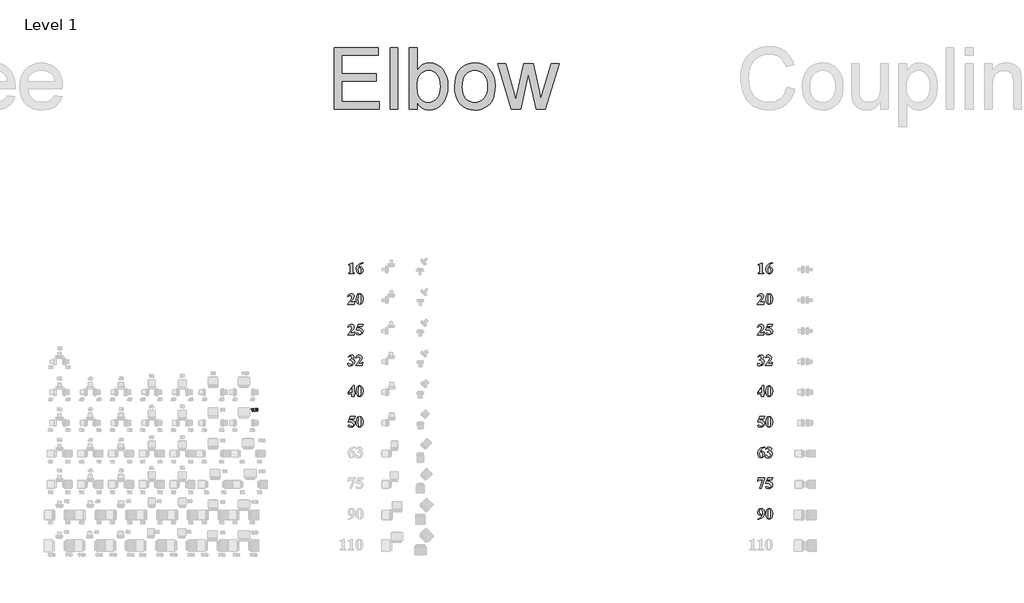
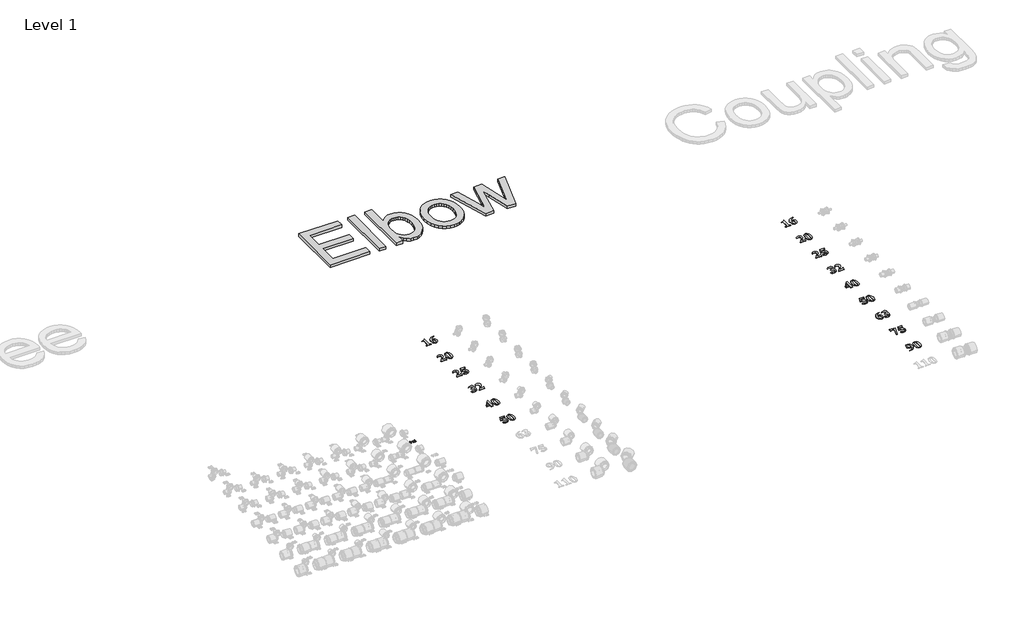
# One storey, part 31 of 57: 17 proxies.
"""IFC4 building model written with IfcOpenShell, lengths in millimetres."""

from ifc_helpers import new_model, si_unit, frame, origin, place, context, project, spatial, polyline, outline, extrude, element, save

model = new_model("IFC4")

# Units and contexts
model_context = context("Model", 3, world=origin())
ifc_project = project(units=[si_unit("LENGTHUNIT", "METRE", prefix="MILLI")], contexts=[model_context])

# Site, building, storey
site = spatial("IfcSite", under=ifc_project)
building = spatial("IfcBuilding", under=site)
storey = spatial("IfcBuildingStorey", under=building, Name="Level 1", Elevation=27.3876384)

# Proxies
placement = place(None, origin())
element("IfcBuildingElementProxy", 1, Name="100mm Arial", ObjectType="100mm Arial", at=placement, inside=storey, context=model_context, shape_type="SweptSolid", body=[
    extrude(outline(polyline([(17028.8058204, 18710.8916255), (17028.8058204, 18627.1351635), (17029.6646513, 18615.4387044), (17033.277194, 18611.2945045), (17042.0836189, 18609.6859006), (17044.510157, 18609.6859006), (17044.510157, 18606.196048), (16988.6725157, 18606.196048), (16988.6725157, 18609.6859006), (16991.4807564, 18609.6859006), (17001.1869089, 18611.1581821), (17005.0993608, 18615.1933242), (17006.1217786, 18627.1351635), (17006.1217786, 18679.4829522), (17005.4674312, 18688.1394225), (17003.0408931, 18691.1248823), (16998.9512221, 18692.3790481), (16989.9812104, 18689.95251), (16988.6725157, 18693.4423626), (17026.3247533, 18710.8916255), (17028.8058204, 18710.8916255)])), frame((0.0, 0.0, 27.3876384), z_axis=(0.0, 0.0, 1.0), x_axis=(1.0, 0.0, 0.0)), (0.0, 0.0, 1.0), 2.0),
    extrude(outline(polyline([(17130.0115453, 18710.8916255), (17130.0115453, 18709.1466992), (17107.9954831, 18700.0676296), (17094.8812715, 18686.5717153), (17087.424438, 18666.91403), (17092.9863906, 18669.4496261), (17102.9651878, 18670.7583208), (17113.5881082, 18668.7032611), (17122.2820671, 18662.5380821), (17128.0791758, 18652.8285215), (17130.0115453, 18640.1403172), (17125.7719197, 18621.8458556), (17113.748287, 18608.9906565), (17097.103326, 18604.4511217), (17079.299625, 18609.6313716), (17066.5398515, 18624.804051), (17061.9594199, 18646.520204), (17064.0621924, 18663.1481247), (17070.37051, 18678.5150634), (17080.5469746, 18691.7519652), (17094.2541886, 18701.989775), (17110.9298221, 18708.5843694), (17130.0115453, 18710.8916255)]), holes=[polyline([(17086.388388, 18661.2975485), (17084.6434617, 18646.1112369), (17086.8382518, 18626.0582168), (17092.8500682, 18612.4668768), (17099.3117484, 18609.6859006), (17106.08697, 18613.7074104), (17109.0724298, 18630.0524621), (17107.7501029, 18647.5698862), (17103.783122, 18658.6801591), (17094.5949945, 18663.7786156), (17086.388388, 18661.2975485)])]), frame((0.0, 0.0, 27.3876384), z_axis=(0.0, 0.0, 1.0), x_axis=(1.0, 0.0, 0.0)), (0.0, 0.0, 1.0), 2.0),
])
element("IfcBuildingElementProxy", 2, Name="100mm Arial", ObjectType="100mm Arial", at=placement, inside=storey, context=model_context, shape_type="SweptSolid", body=[
    extrude(outline(polyline([(17041.8109742, 18306.196048), (16979.9478842, 18306.196048), (16979.9478842, 18307.9409743), (17015.7188732, 18352.5456526), (17021.8261152, 18374.9297852), (17016.6049686, 18388.166687), (17003.8588273, 18393.4423626), (16992.8712446, 18390.5114317), (16984.6646381, 18381.718639), (16981.8563973, 18382.7274246), (16987.1150326, 18395.2281856), (16994.5480097, 18403.9937137), (17003.725913, 18409.1671476), (17014.2193272, 18410.8916255), (17028.7512914, 18407.3063472), (17039.0436301, 18397.4911369), (17042.7652307, 18385.80831), (17037.2578071, 18365.6598643), (17025.2546227, 18349.1171451), (17004.3495878, 18327.1351635), (17026.3247533, 18327.1351635), (17036.8624723, 18327.7349819), (17040.8703498, 18329.7798174), (17045.0009175, 18335.8597949), (17048.0000096, 18335.8597949), (17041.8109742, 18306.196048)])), frame((0.0, 0.0, 27.3876384), z_axis=(0.0, 0.0, 1.0), x_axis=(1.0, 0.0, 0.0)), (0.0, 0.0, 1.0), 2.0),
    extrude(outline(polyline([(17130.0115453, 18357.6713736), (17125.5674362, 18329.0982056), (17118.4514086, 18315.7658781), (17108.3090246, 18307.5047427), (17095.9582182, 18304.4511217), (17082.1760269, 18308.213619), (17071.2838698, 18319.0103504), (17065.3129502, 18332.6425871), (17061.9594199, 18356.4717368), (17066.7852317, 18387.0624758), (17071.7746303, 18397.2491647), (17078.8361289, 18404.7434868), (17095.9582182, 18410.8916255), (17113.0939396, 18404.8252802), (17124.8040309, 18388.5074929), (17130.0115453, 18357.6713736)]), holes=[polyline([(17107.3275035, 18357.6713736), (17106.9730654, 18389.0255179), (17102.8561299, 18403.2303085), (17095.9036892, 18405.6568466), (17090.0690919, 18403.8301269), (17085.7613051, 18394.505677), (17084.6434617, 18347.8561632), (17086.3611236, 18318.6831767), (17090.0554597, 18311.498988), (17096.4217142, 18309.6859006), (17102.8561299, 18312.1124387), (17106.9730654, 18325.1721214), (17107.3275035, 18357.6713736)])]), frame((0.0, 0.0, 27.3876384), z_axis=(0.0, 0.0, 1.0), x_axis=(1.0, 0.0, 0.0)), (0.0, 0.0, 1.0), 2.0),
])
element("IfcBuildingElementProxy", 3, Name="100mm Arial", ObjectType="100mm Arial", at=placement, inside=storey, context=model_context, shape_type="SweptSolid", body=[
    extrude(outline(polyline([(17041.8109742, 18006.196048), (16979.9478842, 18006.196048), (16979.9478842, 18007.9409743), (17015.7188732, 18052.5456526), (17021.8261152, 18074.9297852), (17016.6049686, 18088.166687), (17003.8588273, 18093.4423626), (16992.8712446, 18090.5114317), (16984.6646381, 18081.718639), (16981.8563973, 18082.7274246), (16987.1150326, 18095.2281856), (16994.5480097, 18103.9937137), (17003.725913, 18109.1671476), (17014.2193272, 18110.8916255), (17028.7512914, 18107.3063472), (17039.0436301, 18097.4911369), (17042.7652307, 18085.80831), (17037.2578071, 18065.6598643), (17025.2546227, 18049.1171451), (17004.3495878, 18027.1351635), (17026.3247533, 18027.1351635), (17036.8624723, 18027.7349819), (17040.8703498, 18029.7798174), (17045.0009175, 18035.8597949), (17048.0000096, 18035.8597949), (17041.8109742, 18006.196048)])), frame((0.0, 0.0, 27.3876384), z_axis=(0.0, 0.0, 1.0), x_axis=(1.0, 0.0, 0.0)), (0.0, 0.0, 1.0), 2.0),
    extrude(outline(polyline([(17081.1536091, 18109.1466992), (17130.0115453, 18109.1466992), (17123.0318402, 18088.2075837), (17078.7543355, 18088.2075837), (17075.5643921, 18079.4829522), (17099.8570378, 18075.7068227), (17117.8243258, 18066.3414761), (17126.9647404, 18055.0880647), (17130.0115453, 18041.394483), (17124.3132704, 18022.6910543), (17108.5953015, 18009.0042887), (17086.6065038, 18004.4511217), (17066.7852317, 18009.249669), (17061.9594199, 18016.9655149), (17064.4813837, 18022.8410089), (17070.3568777, 18025.3902372), (17076.4913842, 18024.0815425), (17087.1245288, 18017.1836307), (17095.3038708, 18012.4123479), (17100.729501, 18011.4308268), (17111.5807614, 18015.9976261), (17116.052135, 18026.9715766), (17112.6577081, 18039.0088416), (17102.4744273, 18048.5650395), (17087.1177127, 18054.8017878), (17068.2029843, 18056.8807039), (17061.9594199, 18056.7989104), (17081.1536091, 18109.1466992)])), frame((0.0, 0.0, 27.3876384), z_axis=(0.0, 0.0, 1.0), x_axis=(1.0, 0.0, 0.0)), (0.0, 0.0, 1.0), 2.0),
])
element("IfcBuildingElementProxy", 4, Name="100mm Arial", ObjectType="100mm Arial", at=placement, inside=storey, context=model_context, shape_type="SweptSolid", body=[
    extrude(outline(polyline([(16999.1420734, 17762.0336893), (16999.1420734, 17763.7786156), (17011.5746733, 17768.5907951), (17017.5592251, 17775.379649), (17020.0811889, 17784.6359377), (17015.3780673, 17795.773475), (17003.667976, 17800.4220677), (16993.6073853, 17797.9887135), (16985.1826631, 17790.6886508), (16983.4377368, 17791.6974363), (16997.8470109, 17806.0794459), (17017.436535, 17810.8916255), (17027.4869015, 17809.4397923), (17035.6083065, 17805.0842927), (17040.9759997, 17798.7861993), (17042.7652307, 17791.506585), (17038.7573531, 17781.7322713), (17026.1884309, 17773.4575036), (17042.4107926, 17762.1700117), (17046.6027053, 17754.6109365), (17048.0000096, 17745.3478316), (17045.0077337, 17729.585558), (17036.0309058, 17716.3793288), (17022.0305988, 17707.4331734), (17003.9678852, 17704.4511217), (16992.3668518, 17705.7325519), (16984.3919934, 17709.5768427), (16979.9478842, 17718.8740281), (16982.5243769, 17725.9491589), (16988.4816644, 17728.8800898), (16993.3347406, 17727.7895108), (17002.1956944, 17721.0551859), (17016.4822784, 17714.9206794), (17026.4065467, 17719.3784208), (17030.5507467, 17730.679545), (17028.5502159, 17740.6890148), (17022.5486238, 17749.8873665), (17012.6959247, 17757.3203435), (16999.1420734, 17762.0336893)])), frame((0.0, 0.0, 27.3876384), z_axis=(0.0, 0.0, 1.0), x_axis=(1.0, 0.0, 0.0)), (0.0, 0.0, 1.0), 2.0),
    extrude(outline(polyline([(17120.3326573, 17706.196048), (17058.4695674, 17706.196048), (17058.4695674, 17707.9409743), (17094.2405563, 17752.5456526), (17100.3477984, 17774.9297852), (17095.1266517, 17788.166687), (17082.3805104, 17793.4423626), (17071.3929277, 17790.5114317), (17063.1863212, 17781.718639), (17060.3780805, 17782.7274246), (17065.6367158, 17795.2281856), (17073.0696928, 17803.9937137), (17082.2475961, 17809.1671476), (17092.7410103, 17810.8916255), (17107.2729746, 17807.3063472), (17117.5653133, 17797.4911369), (17121.2869139, 17785.80831), (17115.7794903, 17765.6598643), (17103.7763059, 17749.1171451), (17082.871271, 17727.1351635), (17104.8464365, 17727.1351635), (17115.3841554, 17727.7349819), (17119.392033, 17729.7798174), (17123.5226007, 17735.8597949), (17126.5216927, 17735.8597949), (17120.3326573, 17706.196048)])), frame((0.0, 0.0, 27.3876384), z_axis=(0.0, 0.0, 1.0), x_axis=(1.0, 0.0, 0.0)), (0.0, 0.0, 1.0), 2.0),
])
element("IfcBuildingElementProxy", 5, Name="100mm Arial", ObjectType="100mm Arial", at=placement, inside=storey, context=model_context, shape_type="SweptSolid", body=[
    extrude(outline(polyline([(16983.4377368, 17444.5844264), (17032.7046401, 17510.8916255), (17042.7652307, 17510.8916255), (17042.7652307, 17444.5844264), (17051.4898622, 17444.5844264), (17051.4898622, 17428.8800898), (17042.7652307, 17428.8800898), (17042.7652307, 17406.196048), (17020.0811889, 17406.196048), (17020.0811889, 17428.8800898), (16983.4377368, 17428.8800898), (16983.4377368, 17444.5844264)]), holes=[polyline([(16988.7270446, 17444.5844264), (17020.0811889, 17444.5844264), (17020.0811889, 17486.7625666), (16988.7270446, 17444.5844264)])]), frame((0.0, 0.0, 27.3876384), z_axis=(0.0, 0.0, 1.0), x_axis=(1.0, 0.0, 0.0)), (0.0, 0.0, 1.0), 2.0),
    extrude(outline(polyline([(17130.0115453, 17457.6713736), (17125.5674362, 17429.0982056), (17118.4514086, 17415.7658781), (17108.3090246, 17407.5047427), (17095.9582182, 17404.4511217), (17082.1760269, 17408.213619), (17071.2838698, 17419.0103504), (17065.3129502, 17432.6425871), (17061.9594199, 17456.4717368), (17066.7852317, 17487.0624758), (17071.7746303, 17497.2491647), (17078.8361289, 17504.7434868), (17095.9582182, 17510.8916255), (17113.0939396, 17504.8252802), (17124.8040309, 17488.5074929), (17130.0115453, 17457.6713736)]), holes=[polyline([(17107.3275035, 17457.6713736), (17106.9730654, 17489.0255179), (17102.8561299, 17503.2303085), (17095.9036892, 17505.6568466), (17090.0690919, 17503.8301269), (17085.7613051, 17494.505677), (17084.6434617, 17447.8561632), (17086.3611236, 17418.6831767), (17090.0554597, 17411.498988), (17096.4217142, 17409.6859006), (17102.8561299, 17412.1124387), (17106.9730654, 17425.1721214), (17107.3275035, 17457.6713736)])]), frame((0.0, 0.0, 27.3876384), z_axis=(0.0, 0.0, 1.0), x_axis=(1.0, 0.0, 0.0)), (0.0, 0.0, 1.0), 2.0),
])
element("IfcBuildingElementProxy", 6, Name="100mm Arial", ObjectType="100mm Arial", at=placement, inside=storey, context=model_context, shape_type="SweptSolid", body=[
    extrude(outline(polyline([(17002.631926, 17209.1466992), (17051.4898622, 17209.1466992), (17044.510157, 17188.2075837), (17000.2326524, 17188.2075837), (16997.042709, 17179.4829522), (17021.3353547, 17175.7068227), (17039.3026426, 17166.3414761), (17048.4430573, 17155.0880647), (17051.4898622, 17141.394483), (17045.7915873, 17122.6910543), (17030.0736184, 17109.0042887), (17008.0848207, 17104.4511217), (16988.2635486, 17109.249669), (16983.4377368, 17116.9655149), (16985.9597006, 17122.8410089), (16991.8351946, 17125.3902372), (16997.9697011, 17124.0815425), (17008.6028457, 17117.1836307), (17016.7821877, 17112.4123479), (17022.2078178, 17111.4308268), (17033.0590782, 17115.9976261), (17037.5304518, 17126.9715766), (17034.1360249, 17139.0088416), (17023.9527441, 17148.5650395), (17008.5960295, 17154.8017878), (16989.6813012, 17156.8807039), (16983.4377368, 17156.7989104), (17002.631926, 17209.1466992)])), frame((0.0, 0.0, 27.3876384), z_axis=(0.0, 0.0, 1.0), x_axis=(1.0, 0.0, 0.0)), (0.0, 0.0, 1.0), 2.0),
    extrude(outline(polyline([(17130.0115453, 17157.6713736), (17125.5674362, 17129.0982056), (17118.4514086, 17115.7658781), (17108.3090246, 17107.5047427), (17095.9582182, 17104.4511217), (17082.1760269, 17108.213619), (17071.2838698, 17119.0103504), (17065.3129502, 17132.6425871), (17061.9594199, 17156.4717368), (17066.7852317, 17187.0624758), (17071.7746303, 17197.2491647), (17078.8361289, 17204.7434868), (17095.9582182, 17210.8916255), (17113.0939396, 17204.8252802), (17124.8040309, 17188.5074929), (17130.0115453, 17157.6713736)]), holes=[polyline([(17107.3275035, 17157.6713736), (17106.9730654, 17189.0255179), (17102.8561299, 17203.2303085), (17095.9036892, 17205.6568466), (17090.0690919, 17203.8301269), (17085.7613051, 17194.505677), (17084.6434617, 17147.8561632), (17086.3611236, 17118.6831767), (17090.0554597, 17111.498988), (17096.4217142, 17109.6859006), (17102.8561299, 17112.1124387), (17106.9730654, 17125.1721214), (17107.3275035, 17157.6713736)])]), frame((0.0, 0.0, 27.3876384), z_axis=(0.0, 0.0, 1.0), x_axis=(1.0, 0.0, 0.0)), (0.0, 0.0, 1.0), 2.0),
])
element("IfcBuildingElementProxy", 7, Name="100mm Arial", ObjectType="100mm Arial", at=placement, inside=storey, context=model_context, shape_type="SweptSolid", body=[
    extrude(outline(polyline([(21028.8058204, 18710.8916255), (21028.8058204, 18627.1351635), (21029.6646513, 18615.4387044), (21033.277194, 18611.2945045), (21042.0836189, 18609.6859006), (21044.510157, 18609.6859006), (21044.510157, 18606.196048), (20988.6725157, 18606.196048), (20988.6725157, 18609.6859006), (20991.4807564, 18609.6859006), (21001.1869089, 18611.1581821), (21005.0993608, 18615.1933242), (21006.1217786, 18627.1351635), (21006.1217786, 18679.4829522), (21005.4674312, 18688.1394225), (21003.0408931, 18691.1248823), (20998.9512221, 18692.3790481), (20989.9812104, 18689.95251), (20988.6725157, 18693.4423626), (21026.3247533, 18710.8916255), (21028.8058204, 18710.8916255)])), frame((0.0, 0.0, 27.3876384), z_axis=(0.0, 0.0, 1.0), x_axis=(1.0, 0.0, 0.0)), (0.0, 0.0, 1.0), 2.0),
    extrude(outline(polyline([(21130.0115453, 18710.8916255), (21130.0115453, 18709.1466992), (21107.9954831, 18700.0676296), (21094.8812715, 18686.5717153), (21087.424438, 18666.91403), (21092.9863906, 18669.4496261), (21102.9651878, 18670.7583208), (21113.5881082, 18668.7032611), (21122.2820671, 18662.5380821), (21128.0791758, 18652.8285215), (21130.0115453, 18640.1403172), (21125.7719197, 18621.8458556), (21113.748287, 18608.9906565), (21097.103326, 18604.4511217), (21079.299625, 18609.6313716), (21066.5398515, 18624.804051), (21061.9594199, 18646.520204), (21064.0621924, 18663.1481247), (21070.37051, 18678.5150634), (21080.5469746, 18691.7519652), (21094.2541886, 18701.989775), (21110.9298221, 18708.5843694), (21130.0115453, 18710.8916255)]), holes=[polyline([(21086.388388, 18661.2975485), (21084.6434617, 18646.1112369), (21086.8382518, 18626.0582168), (21092.8500682, 18612.4668768), (21099.3117484, 18609.6859006), (21106.08697, 18613.7074104), (21109.0724298, 18630.0524621), (21107.7501029, 18647.5698862), (21103.783122, 18658.6801591), (21094.5949945, 18663.7786156), (21086.388388, 18661.2975485)])]), frame((0.0, 0.0, 27.3876384), z_axis=(0.0, 0.0, 1.0), x_axis=(1.0, 0.0, 0.0)), (0.0, 0.0, 1.0), 2.0),
])
element("IfcBuildingElementProxy", 8, Name="100mm Arial", ObjectType="100mm Arial", at=placement, inside=storey, context=model_context, shape_type="SweptSolid", body=[
    extrude(outline(polyline([(21041.8109742, 18306.196048), (20979.9478842, 18306.196048), (20979.9478842, 18307.9409743), (21015.7188732, 18352.5456526), (21021.8261152, 18374.9297852), (21016.6049686, 18388.166687), (21003.8588273, 18393.4423626), (20992.8712446, 18390.5114317), (20984.6646381, 18381.718639), (20981.8563973, 18382.7274246), (20987.1150326, 18395.2281856), (20994.5480097, 18403.9937137), (21003.725913, 18409.1671476), (21014.2193272, 18410.8916255), (21028.7512914, 18407.3063472), (21039.0436301, 18397.4911369), (21042.7652307, 18385.80831), (21037.2578071, 18365.6598643), (21025.2546227, 18349.1171451), (21004.3495878, 18327.1351635), (21026.3247533, 18327.1351635), (21036.8624723, 18327.7349819), (21040.8703498, 18329.7798174), (21045.0009175, 18335.8597949), (21048.0000096, 18335.8597949), (21041.8109742, 18306.196048)])), frame((0.0, 0.0, 27.3876384), z_axis=(0.0, 0.0, 1.0), x_axis=(1.0, 0.0, 0.0)), (0.0, 0.0, 1.0), 2.0),
    extrude(outline(polyline([(21130.0115453, 18357.6713736), (21125.5674362, 18329.0982056), (21118.4514086, 18315.7658781), (21108.3090246, 18307.5047427), (21095.9582182, 18304.4511217), (21082.1760269, 18308.213619), (21071.2838698, 18319.0103504), (21065.3129502, 18332.6425871), (21061.9594199, 18356.4717368), (21066.7852317, 18387.0624758), (21071.7746303, 18397.2491647), (21078.8361289, 18404.7434868), (21095.9582182, 18410.8916255), (21113.0939396, 18404.8252802), (21124.8040309, 18388.5074929), (21130.0115453, 18357.6713736)]), holes=[polyline([(21107.3275035, 18357.6713736), (21106.9730654, 18389.0255179), (21102.8561299, 18403.2303085), (21095.9036892, 18405.6568466), (21090.0690919, 18403.8301269), (21085.7613051, 18394.505677), (21084.6434617, 18347.8561632), (21086.3611236, 18318.6831767), (21090.0554597, 18311.498988), (21096.4217142, 18309.6859006), (21102.8561299, 18312.1124387), (21106.9730654, 18325.1721214), (21107.3275035, 18357.6713736)])]), frame((0.0, 0.0, 27.3876384), z_axis=(0.0, 0.0, 1.0), x_axis=(1.0, 0.0, 0.0)), (0.0, 0.0, 1.0), 2.0),
])
element("IfcBuildingElementProxy", 9, Name="100mm Arial", ObjectType="100mm Arial", at=placement, inside=storey, context=model_context, shape_type="SweptSolid", body=[
    extrude(outline(polyline([(21041.8109742, 18006.196048), (20979.9478842, 18006.196048), (20979.9478842, 18007.9409743), (21015.7188732, 18052.5456526), (21021.8261152, 18074.9297852), (21016.6049686, 18088.166687), (21003.8588273, 18093.4423626), (20992.8712446, 18090.5114317), (20984.6646381, 18081.718639), (20981.8563973, 18082.7274246), (20987.1150326, 18095.2281856), (20994.5480097, 18103.9937137), (21003.725913, 18109.1671476), (21014.2193272, 18110.8916255), (21028.7512914, 18107.3063472), (21039.0436301, 18097.4911369), (21042.7652307, 18085.80831), (21037.2578071, 18065.6598643), (21025.2546227, 18049.1171451), (21004.3495878, 18027.1351635), (21026.3247533, 18027.1351635), (21036.8624723, 18027.7349819), (21040.8703498, 18029.7798174), (21045.0009175, 18035.8597949), (21048.0000096, 18035.8597949), (21041.8109742, 18006.196048)])), frame((0.0, 0.0, 27.3876384), z_axis=(0.0, 0.0, 1.0), x_axis=(1.0, 0.0, 0.0)), (0.0, 0.0, 1.0), 2.0),
    extrude(outline(polyline([(21081.1536091, 18109.1466992), (21130.0115453, 18109.1466992), (21123.0318402, 18088.2075837), (21078.7543355, 18088.2075837), (21075.5643921, 18079.4829522), (21099.8570378, 18075.7068227), (21117.8243258, 18066.3414761), (21126.9647404, 18055.0880647), (21130.0115453, 18041.394483), (21124.3132704, 18022.6910543), (21108.5953015, 18009.0042887), (21086.6065038, 18004.4511217), (21066.7852317, 18009.249669), (21061.9594199, 18016.9655149), (21064.4813837, 18022.8410089), (21070.3568777, 18025.3902372), (21076.4913842, 18024.0815425), (21087.1245288, 18017.1836307), (21095.3038708, 18012.4123479), (21100.729501, 18011.4308268), (21111.5807614, 18015.9976261), (21116.052135, 18026.9715766), (21112.6577081, 18039.0088416), (21102.4744273, 18048.5650395), (21087.1177127, 18054.8017878), (21068.2029843, 18056.8807039), (21061.9594199, 18056.7989104), (21081.1536091, 18109.1466992)])), frame((0.0, 0.0, 27.3876384), z_axis=(0.0, 0.0, 1.0), x_axis=(1.0, 0.0, 0.0)), (0.0, 0.0, 1.0), 2.0),
])
element("IfcBuildingElementProxy", 10, Name="100mm Arial", ObjectType="100mm Arial", at=placement, inside=storey, context=model_context, shape_type="SweptSolid", body=[
    extrude(outline(polyline([(20999.1420734, 17762.0336893), (20999.1420734, 17763.7786156), (21011.5746733, 17768.5907951), (21017.5592251, 17775.379649), (21020.0811889, 17784.6359377), (21015.3780673, 17795.773475), (21003.667976, 17800.4220677), (20993.6073853, 17797.9887135), (20985.1826631, 17790.6886508), (20983.4377368, 17791.6974363), (20997.8470109, 17806.0794459), (21017.436535, 17810.8916255), (21027.4869015, 17809.4397923), (21035.6083065, 17805.0842927), (21040.9759997, 17798.7861993), (21042.7652307, 17791.506585), (21038.7573531, 17781.7322713), (21026.1884309, 17773.4575036), (21042.4107926, 17762.1700117), (21046.6027053, 17754.6109365), (21048.0000096, 17745.3478316), (21045.0077337, 17729.585558), (21036.0309058, 17716.3793288), (21022.0305988, 17707.4331734), (21003.9678852, 17704.4511217), (20992.3668518, 17705.7325519), (20984.3919934, 17709.5768427), (20979.9478842, 17718.8740281), (20982.5243769, 17725.9491589), (20988.4816644, 17728.8800898), (20993.3347406, 17727.7895108), (21002.1956944, 17721.0551859), (21016.4822784, 17714.9206794), (21026.4065467, 17719.3784208), (21030.5507467, 17730.679545), (21028.5502159, 17740.6890148), (21022.5486238, 17749.8873665), (21012.6959247, 17757.3203435), (20999.1420734, 17762.0336893)])), frame((0.0, 0.0, 27.3876384), z_axis=(0.0, 0.0, 1.0), x_axis=(1.0, 0.0, 0.0)), (0.0, 0.0, 1.0), 2.0),
    extrude(outline(polyline([(21120.3326573, 17706.196048), (21058.4695674, 17706.196048), (21058.4695674, 17707.9409743), (21094.2405563, 17752.5456526), (21100.3477984, 17774.9297852), (21095.1266517, 17788.166687), (21082.3805104, 17793.4423626), (21071.3929277, 17790.5114317), (21063.1863212, 17781.718639), (21060.3780805, 17782.7274246), (21065.6367158, 17795.2281856), (21073.0696928, 17803.9937137), (21082.2475961, 17809.1671476), (21092.7410103, 17810.8916255), (21107.2729746, 17807.3063472), (21117.5653133, 17797.4911369), (21121.2869139, 17785.80831), (21115.7794903, 17765.6598643), (21103.7763059, 17749.1171451), (21082.871271, 17727.1351635), (21104.8464365, 17727.1351635), (21115.3841554, 17727.7349819), (21119.392033, 17729.7798174), (21123.5226007, 17735.8597949), (21126.5216927, 17735.8597949), (21120.3326573, 17706.196048)])), frame((0.0, 0.0, 27.3876384), z_axis=(0.0, 0.0, 1.0), x_axis=(1.0, 0.0, 0.0)), (0.0, 0.0, 1.0), 2.0),
])
element("IfcBuildingElementProxy", 11, Name="100mm Arial", ObjectType="100mm Arial", at=placement, inside=storey, context=model_context, shape_type="SweptSolid", body=[
    extrude(outline(polyline([(20983.4377368, 17444.5844264), (21032.7046401, 17510.8916255), (21042.7652307, 17510.8916255), (21042.7652307, 17444.5844264), (21051.4898622, 17444.5844264), (21051.4898622, 17428.8800898), (21042.7652307, 17428.8800898), (21042.7652307, 17406.196048), (21020.0811889, 17406.196048), (21020.0811889, 17428.8800898), (20983.4377368, 17428.8800898), (20983.4377368, 17444.5844264)]), holes=[polyline([(20988.7270446, 17444.5844264), (21020.0811889, 17444.5844264), (21020.0811889, 17486.7625666), (20988.7270446, 17444.5844264)])]), frame((0.0, 0.0, 27.3876384), z_axis=(0.0, 0.0, 1.0), x_axis=(1.0, 0.0, 0.0)), (0.0, 0.0, 1.0), 2.0),
    extrude(outline(polyline([(21130.0115453, 17457.6713736), (21125.5674362, 17429.0982056), (21118.4514086, 17415.7658781), (21108.3090246, 17407.5047427), (21095.9582182, 17404.4511217), (21082.1760269, 17408.213619), (21071.2838698, 17419.0103504), (21065.3129502, 17432.6425871), (21061.9594199, 17456.4717368), (21066.7852317, 17487.0624758), (21071.7746303, 17497.2491647), (21078.8361289, 17504.7434868), (21095.9582182, 17510.8916255), (21113.0939396, 17504.8252802), (21124.8040309, 17488.5074929), (21130.0115453, 17457.6713736)]), holes=[polyline([(21107.3275035, 17457.6713736), (21106.9730654, 17489.0255179), (21102.8561299, 17503.2303085), (21095.9036892, 17505.6568466), (21090.0690919, 17503.8301269), (21085.7613051, 17494.505677), (21084.6434617, 17447.8561632), (21086.3611236, 17418.6831767), (21090.0554597, 17411.498988), (21096.4217142, 17409.6859006), (21102.8561299, 17412.1124387), (21106.9730654, 17425.1721214), (21107.3275035, 17457.6713736)])]), frame((0.0, 0.0, 27.3876384), z_axis=(0.0, 0.0, 1.0), x_axis=(1.0, 0.0, 0.0)), (0.0, 0.0, 1.0), 2.0),
])
element("IfcBuildingElementProxy", 12, Name="100mm Arial", ObjectType="100mm Arial", at=placement, inside=storey, context=model_context, shape_type="SweptSolid", body=[
    extrude(outline(polyline([(21002.631926, 17209.1466992), (21051.4898622, 17209.1466992), (21044.510157, 17188.2075837), (21000.2326524, 17188.2075837), (20997.042709, 17179.4829522), (21021.3353547, 17175.7068227), (21039.3026426, 17166.3414761), (21048.4430573, 17155.0880647), (21051.4898622, 17141.394483), (21045.7915873, 17122.6910543), (21030.0736184, 17109.0042887), (21008.0848207, 17104.4511217), (20988.2635486, 17109.249669), (20983.4377368, 17116.9655149), (20985.9597006, 17122.8410089), (20991.8351946, 17125.3902372), (20997.9697011, 17124.0815425), (21008.6028457, 17117.1836307), (21016.7821877, 17112.4123479), (21022.2078178, 17111.4308268), (21033.0590782, 17115.9976261), (21037.5304518, 17126.9715766), (21034.1360249, 17139.0088416), (21023.9527441, 17148.5650395), (21008.5960295, 17154.8017878), (20989.6813012, 17156.8807039), (20983.4377368, 17156.7989104), (21002.631926, 17209.1466992)])), frame((0.0, 0.0, 27.3876384), z_axis=(0.0, 0.0, 1.0), x_axis=(1.0, 0.0, 0.0)), (0.0, 0.0, 1.0), 2.0),
    extrude(outline(polyline([(21130.0115453, 17157.6713736), (21125.5674362, 17129.0982056), (21118.4514086, 17115.7658781), (21108.3090246, 17107.5047427), (21095.9582182, 17104.4511217), (21082.1760269, 17108.213619), (21071.2838698, 17119.0103504), (21065.3129502, 17132.6425871), (21061.9594199, 17156.4717368), (21066.7852317, 17187.0624758), (21071.7746303, 17197.2491647), (21078.8361289, 17204.7434868), (21095.9582182, 17210.8916255), (21113.0939396, 17204.8252802), (21124.8040309, 17188.5074929), (21130.0115453, 17157.6713736)]), holes=[polyline([(21107.3275035, 17157.6713736), (21106.9730654, 17189.0255179), (21102.8561299, 17203.2303085), (21095.9036892, 17205.6568466), (21090.0690919, 17203.8301269), (21085.7613051, 17194.505677), (21084.6434617, 17147.8561632), (21086.3611236, 17118.6831767), (21090.0554597, 17111.498988), (21096.4217142, 17109.6859006), (21102.8561299, 17112.1124387), (21106.9730654, 17125.1721214), (21107.3275035, 17157.6713736)])]), frame((0.0, 0.0, 27.3876384), z_axis=(0.0, 0.0, 1.0), x_axis=(1.0, 0.0, 0.0)), (0.0, 0.0, 1.0), 2.0),
])
element("IfcBuildingElementProxy", 13, Name="100mm Arial", ObjectType="100mm Arial", at=placement, inside=storey, context=model_context, shape_type="SweptSolid", body=[
    extrude(outline(polyline([(21051.4898622, 16910.8916255), (21051.4898622, 16909.1466992), (21029.4738, 16900.0676296), (21016.3595883, 16886.5717153), (21008.9027549, 16866.91403), (21014.4647074, 16869.4496261), (21024.4435047, 16870.7583208), (21035.0664251, 16868.7032611), (21043.760384, 16862.5380821), (21049.5574926, 16852.8285215), (21051.4898622, 16840.1403172), (21047.2502366, 16821.8458556), (21035.2266039, 16808.9906565), (21018.5816429, 16804.4511217), (21000.7779418, 16809.6313716), (20988.0181683, 16824.804051), (20983.4377368, 16846.520204), (20985.5405093, 16863.1481247), (20991.8488268, 16878.5150634), (21002.0252915, 16891.7519652), (21015.7325054, 16901.989775), (21032.4081389, 16908.5843694), (21051.4898622, 16910.8916255)]), holes=[polyline([(21007.8667049, 16861.2975485), (21006.1217786, 16846.1112369), (21008.3165687, 16826.0582168), (21014.3283851, 16812.4668768), (21020.7900652, 16809.6859006), (21027.5652869, 16813.7074104), (21030.5507467, 16830.0524621), (21029.2284197, 16847.5698862), (21025.2614389, 16858.6801591), (21016.0733113, 16863.7786156), (21007.8667049, 16861.2975485)])]), frame((0.0, 0.0, 27.3876384), z_axis=(0.0, 0.0, 1.0), x_axis=(1.0, 0.0, 0.0)), (0.0, 0.0, 1.0), 2.0),
    extrude(outline(polyline([(21077.6637566, 16862.0336893), (21077.6637566, 16863.7786156), (21090.0963564, 16868.5907951), (21096.0809083, 16875.379649), (21098.6028721, 16884.6359377), (21093.8997504, 16895.773475), (21082.1896591, 16900.4220677), (21072.1290685, 16897.9887135), (21063.7043462, 16890.6886508), (21061.9594199, 16891.6974363), (21076.3686941, 16906.0794459), (21095.9582182, 16910.8916255), (21106.0085846, 16909.4397923), (21114.1299896, 16905.0842927), (21119.4976828, 16898.7861993), (21121.2869139, 16891.506585), (21117.2790363, 16881.7322713), (21104.7101141, 16873.4575036), (21120.9324757, 16862.1700117), (21125.1243885, 16854.6109365), (21126.5216927, 16845.3478316), (21123.5294168, 16829.585558), (21114.552589, 16816.3793288), (21100.5522819, 16807.4331734), (21082.4895683, 16804.4511217), (21070.8885349, 16805.7325519), (21062.9136765, 16809.5768427), (21058.4695674, 16818.8740281), (21061.0460601, 16825.9491589), (21067.0033475, 16828.8800898), (21071.8564237, 16827.7895108), (21080.7173776, 16821.0551859), (21095.0039616, 16814.9206794), (21104.9282299, 16819.3784208), (21109.0724298, 16830.679545), (21107.0718991, 16840.6890148), (21101.0703069, 16849.8873665), (21091.2176079, 16857.3203435), (21077.6637566, 16862.0336893)])), frame((0.0, 0.0, 27.3876384), z_axis=(0.0, 0.0, 1.0), x_axis=(1.0, 0.0, 0.0)), (0.0, 0.0, 1.0), 2.0),
])
element("IfcBuildingElementProxy", 14, Name="100mm Arial", ObjectType="100mm Arial", at=placement, inside=storey, context=model_context, shape_type="SweptSolid", body=[
    extrude(outline(polyline([(21006.0945141, 16506.196048), (21034.5040953, 16588.2075837), (21012.8561035, 16588.2075837), (20993.7437077, 16584.8540535), (20986.3550354, 16575.9930996), (20983.4377368, 16575.9930996), (20990.935467, 16609.1466992), (21052.7167635, 16609.1466992), (21016.2914271, 16506.196048), (21006.0945141, 16506.196048)])), frame((0.0, 0.0, 27.3876384), z_axis=(0.0, 0.0, 1.0), x_axis=(1.0, 0.0, 0.0)), (0.0, 0.0, 1.0), 2.0),
    extrude(outline(polyline([(21081.1536091, 16609.1466992), (21130.0115453, 16609.1466992), (21123.0318402, 16588.2075837), (21078.7543355, 16588.2075837), (21075.5643921, 16579.4829522), (21099.8570378, 16575.7068227), (21117.8243258, 16566.3414761), (21126.9647404, 16555.0880647), (21130.0115453, 16541.394483), (21124.3132704, 16522.6910543), (21108.5953015, 16509.0042887), (21086.6065038, 16504.4511217), (21066.7852317, 16509.249669), (21061.9594199, 16516.9655149), (21064.4813837, 16522.8410089), (21070.3568777, 16525.3902372), (21076.4913842, 16524.0815425), (21087.1245288, 16517.1836307), (21095.3038708, 16512.4123479), (21100.729501, 16511.4308268), (21111.5807614, 16515.9976261), (21116.052135, 16526.9715766), (21112.6577081, 16539.0088416), (21102.4744273, 16548.5650395), (21087.1177127, 16554.8017878), (21068.2029843, 16556.8807039), (21061.9594199, 16556.7989104), (21081.1536091, 16609.1466992)])), frame((0.0, 0.0, 27.3876384), z_axis=(0.0, 0.0, 1.0), x_axis=(1.0, 0.0, 0.0)), (0.0, 0.0, 1.0), 2.0),
])
element("IfcBuildingElementProxy", 15, Name="100mm Arial", ObjectType="100mm Arial", at=placement, inside=storey, context=model_context, shape_type="SweptSolid", body=[
    extrude(outline(polyline([(20983.4377368, 16204.4511217), (20983.4377368, 16206.196048), (21005.6310181, 16214.8116215), (21020.0675567, 16228.9073542), (21027.5243901, 16248.2378658), (21019.1678291, 16245.3887284), (21011.9018469, 16244.5844264), (21000.7097806, 16246.6394861), (20991.5625498, 16252.8046651), (20985.4689401, 16262.5483062), (20983.4377368, 16275.3387523), (20987.7046269, 16293.524156), (20999.8918464, 16306.3384584), (21016.3459561, 16310.8916255), (21033.6588966, 16305.7659045), (21046.6504182, 16290.9203988), (21051.4898622, 16268.7407497), (21049.5268201, 16252.9614358), (21043.6376939, 16237.8501015), (21033.8599721, 16224.5348143), (21020.2311435, 16214.1436419), (21003.2556008, 16207.2559544), (20983.4377368, 16204.4511217)]), holes=[polyline([(21028.8058204, 16253.9634052), (21028.8058204, 16268.7952787), (21025.3159678, 16294.3420902), (21019.454106, 16303.9937137), (21014.0557403, 16305.6568466), (21007.5940601, 16302.4123743), (21004.3768523, 16285.4538719), (21005.7877888, 16267.834206), (21010.0205983, 16256.6898525), (21019.972131, 16251.5641316), (21028.8058204, 16253.9634052)])]), frame((0.0, 0.0, 27.3876384), z_axis=(0.0, 0.0, 1.0), x_axis=(1.0, 0.0, 0.0)), (0.0, 0.0, 1.0), 2.0),
    extrude(outline(polyline([(21130.0115453, 16257.6713736), (21125.5674362, 16229.0982056), (21118.4514086, 16215.7658781), (21108.3090246, 16207.5047427), (21095.9582182, 16204.4511217), (21082.1760269, 16208.213619), (21071.2838698, 16219.0103504), (21065.3129502, 16232.6425871), (21061.9594199, 16256.4717368), (21066.7852317, 16287.0624758), (21071.7746303, 16297.2491647), (21078.8361289, 16304.7434868), (21095.9582182, 16310.8916255), (21113.0939396, 16304.8252802), (21124.8040309, 16288.5074929), (21130.0115453, 16257.6713736)]), holes=[polyline([(21107.3275035, 16257.6713736), (21106.9730654, 16289.0255179), (21102.8561299, 16303.2303085), (21095.9036892, 16305.6568466), (21090.0690919, 16303.8301269), (21085.7613051, 16294.505677), (21084.6434617, 16247.8561632), (21086.3611236, 16218.6831767), (21090.0554597, 16211.498988), (21096.4217142, 16209.6859006), (21102.8561299, 16212.1124387), (21106.9730654, 16225.1721214), (21107.3275035, 16257.6713736)])]), frame((0.0, 0.0, 27.3876384), z_axis=(0.0, 0.0, 1.0), x_axis=(1.0, 0.0, 0.0)), (0.0, 0.0, 1.0), 2.0),
])
element("IfcBuildingElementProxy", 16, Name="30mm Arial", ObjectType="30mm Arial", at=placement, inside=storey, context=model_context, shape_type="SweptSolid", body=[
    extrude(outline(polyline([(16051.9389426, 17259.8803264), (16046.1088889, 17259.8803264), (16046.1088889, 17281.7582103), (16038.8213218, 17276.8846498), (16038.8213218, 17282.7147035), (16043.6872911, 17285.5727962), (16047.2931186, 17290.4881084), (16051.9389426, 17290.4881084), (16051.9389426, 17259.8803264)])), frame((0.0, 0.0, 27.3876384), z_axis=(0.0, 0.0, 1.0), x_axis=(1.0, 0.0, 0.0)), (0.0, 0.0, 1.0), 2.0),
    extrude(outline(polyline([(16075.2591575, 17259.8803264), (16069.4291038, 17259.8803264), (16069.4291038, 17281.7582103), (16062.1415366, 17276.8846498), (16062.1415366, 17282.7147035), (16067.007506, 17285.5727962), (16070.6133335, 17290.4881084), (16075.2591575, 17290.4881084), (16075.2591575, 17259.8803264)])), frame((0.0, 0.0, 27.3876384), z_axis=(0.0, 0.0, 1.0), x_axis=(1.0, 0.0, 0.0)), (0.0, 0.0, 1.0), 2.0),
    extrude(outline(polyline([(16093.7209943, 17290.4881084), (16100.5151324, 17287.3301627), (16103.4377505, 17274.9337073), (16100.49995, 17262.5068871), (16093.7209943, 17259.3944886), (16086.6801416, 17262.8105357), (16084.0042381, 17274.994437), (16086.9420386, 17287.37571), (16093.7209943, 17290.4881084)]), holes=[polyline([(16093.7209943, 17285.1438925), (16091.777643, 17284.5024348), (16090.4567715, 17282.1985008), (16089.8342918, 17274.9337073), (16090.3884505, 17267.9156283), (16091.7890299, 17265.372571), (16093.7209943, 17264.7387045), (16095.6643455, 17265.3801623), (16096.985217, 17267.6840962), (16097.6076967, 17274.9337073), (16097.053538, 17281.9479907), (16095.6529587, 17284.5024348), (16093.7209943, 17285.1438925)])]), frame((0.0, 0.0, 27.3876384), z_axis=(0.0, 0.0, 1.0), x_axis=(1.0, 0.0, 0.0)), (0.0, 0.0, 1.0), 2.0),
])
element("IfcBuildingElementProxy", 17, Name="600mm Arial", ObjectType="600mm Arial", at=placement, inside=storey, context=model_context, shape_type="SweptSolid", body=[
    extrude(outline(polyline([(16846.7427908, 20213.7679008), (16846.7427908, 20816.5057617), (17279.9606283, 20816.5057617), (17279.9606283, 20741.1635291), (16922.0850234, 20741.1635291), (16922.0850234, 20562.2257266), (17261.1250702, 20562.2257266), (17261.1250702, 20486.883494), (16922.0850234, 20486.883494), (16922.0850234, 20289.1101334), (17289.3784074, 20289.1101334), (17289.3784074, 20213.7679008), (16846.7427908, 20213.7679008)])), frame((0.0, 0.0, 27.3876384), z_axis=(0.0, 0.0, 1.0), x_axis=(1.0, 0.0, 0.0)), (0.0, 0.0, 1.0), 30.0),
    extrude(outline(polyline([(17392.9739772, 20213.7679008), (17392.9739772, 20816.5057617), (17468.3162098, 20816.5057617), (17468.3162098, 20213.7679008), (17392.9739772, 20213.7679008)])), frame((0.0, 0.0, 27.3876384), z_axis=(0.0, 0.0, 1.0), x_axis=(1.0, 0.0, 0.0)), (0.0, 0.0, 1.0), 30.0),
    extrude(outline(polyline([(17656.6717914, 20213.7679008), (17581.3295588, 20213.7679008), (17581.3295588, 20816.5057617), (17656.6717914, 20816.5057617), (17656.6717914, 20592.9806614), (17681.4486437, 20624.8484393), (17709.4260695, 20647.6111377), (17740.6040686, 20661.2687568), (17774.982641, 20665.8212965), (17813.7941915, 20661.7194122), (17850.4720264, 20649.4137595), (17882.9192184, 20629.6768905), (17909.0388401, 20603.2813573), (17929.5114731, 20570.4846774), (17945.0176992, 20531.5443682), (17954.7849662, 20488.0791105), (17958.0407218, 20441.707585), (17954.670003, 20388.1991488), (17944.5578467, 20341.1286475), (17927.7042528, 20300.4960812), (17904.1092213, 20266.3014497), (17875.7869062, 20239.1977437), (17844.7514614, 20219.8379537), (17811.0028869, 20208.2220797), (17774.5411826, 20204.3501217), (17739.031373, 20209.3441198), (17707.5498713, 20224.3261141), (17680.0966774, 20249.2961045), (17656.6717914, 20284.2540911), (17656.6717914, 20213.7679008)]), holes=[polyline([(17656.6717914, 20438.1759179), (17661.8221393, 20375.3416731), (17668.2600742, 20351.539708), (17677.2731831, 20332.8145144), (17695.5293271, 20309.5735694), (17716.7469212, 20292.9728944), (17740.9259653, 20283.0124893), (17768.0664595, 20279.6923543), (17790.5992317, 20282.1387696), (17811.5501113, 20289.4780154), (17830.9190984, 20301.7100918), (17848.7061928, 20318.8349986), (17863.5778225, 20340.8067508), (17874.2004151, 20367.579363), (17880.5739707, 20399.1528352), (17882.6984892, 20435.5271675), (17880.6613427, 20472.5912785), (17874.549903, 20504.4682534), (17864.3641703, 20531.1580921), (17850.1041444, 20552.6607948), (17832.9562449, 20569.2062875), (17814.1068912, 20581.0244966), (17793.5560832, 20588.115422), (17771.3038211, 20590.4790639), (17748.7710489, 20588.0326486), (17727.8201692, 20580.6934028), (17708.4511822, 20568.4613265), (17690.6640877, 20551.3364196), (17675.7924581, 20529.5853966), (17665.1698655, 20503.474972), (17658.7963099, 20473.0051458), (17656.6717914, 20438.1759179)])]), frame((0.0, 0.0, 27.3876384), z_axis=(0.0, 0.0, 1.0), x_axis=(1.0, 0.0, 0.0)), (0.0, 0.0, 1.0), 30.0),
    extrude(outline(polyline([(18023.9651754, 20435.0857091), (18028.0394684, 20492.410921), (18040.2623477, 20541.8082759), (18060.6338132, 20583.2777738), (18089.1538649, 20616.8194147), (18117.8670546, 20638.257738), (18149.5600885, 20653.570826), (18184.2329665, 20662.7586789), (18221.8856888, 20665.8212965), (18263.4517557, 20662.0918928), (18301.0355, 20650.9036816), (18334.6369218, 20632.2566629), (18364.2560209, 20606.1508369), (18388.4304665, 20573.4691201), (18405.6979276, 20535.0944295), (18416.0584043, 20491.026765), (18419.5118966, 20441.2661266), (18417.9851863, 20400.9370629), (18413.4050554, 20365.1513418), (18405.771504, 20333.9089634), (18395.0845321, 20307.2099276), (18381.4774968, 20284.148325), (18365.0837554, 20263.8182462), (18345.9033079, 20246.2196913), (18323.9361542, 20231.3526602), (18300.0376201, 20219.5390496), (18275.0630312, 20211.1007563), (18249.0123874, 20206.0377804), (18221.8856888, 20204.3501217), (18179.7126165, 20208.0657299), (18141.7793843, 20219.2125543), (18108.0859921, 20237.7905951), (18078.6324398, 20263.7998521), (18054.7155116, 20296.7988671), (18037.6319915, 20336.3461816), (18027.3818794, 20382.4417956), (18023.9651754, 20435.0857091)]), holes=[polyline([(18099.307408, 20435.2328619), (18101.4871088, 20398.6883842), (18108.0262112, 20367.0459341), (18118.9247154, 20340.3055116), (18134.1826211, 20318.4671166), (18152.7422678, 20301.5031581), (18173.5459946, 20289.3860449), (18196.5938016, 20282.115777), (18221.8856888, 20279.6923543), (18247.0488172, 20282.1295726), (18270.0046537, 20289.4412272), (18290.7531983, 20301.6273183), (18309.2944508, 20318.6878458), (18324.5523566, 20340.7423714), (18335.4508607, 20367.9104568), (18341.9899631, 20400.1921019), (18344.169664, 20437.5873067), (18341.9761676, 20472.9729561), (18335.3956784, 20503.7876717), (18324.4281964, 20530.0314535), (18309.0737216, 20551.7043016), (18290.4634912, 20568.6682601), (18269.7287422, 20580.7853733), (18246.8694748, 20588.0556412), (18221.8856888, 20590.4790639), (18196.5938016, 20588.0648383), (18173.5459946, 20580.8221615), (18152.7422678, 20568.7510335), (18134.1826211, 20551.8514544), (18118.9247154, 20530.0774388), (18108.0262112, 20503.3830015), (18101.4871088, 20471.7681425), (18099.307408, 20435.2328619)])]), frame((0.0, 0.0, 27.3876384), z_axis=(0.0, 0.0, 1.0), x_axis=(1.0, 0.0, 0.0)), (0.0, 0.0, 1.0), 30.0),
    extrude(outline(polyline([(18577.7011545, 20213.7679008), (18443.0563443, 20656.4035174), (18521.3416328, 20656.4035174), (18597.713935, 20398.1503568), (18620.5226187, 20305.8855524), (18639.2110241, 20394.7658424), (18699.9851297, 20656.4035174), (18789.7483365, 20656.4035174), (18850.2281365, 20395.5016064), (18866.8564027, 20315.0090259), (18890.695156, 20399.9161904), (18967.214611, 20656.4035174), (19045.7942052, 20656.4035174), (18910.1193253, 20213.7679008), (18819.0317433, 20213.7679008), (18761.2006937, 20473.3454366), (18744.4252747, 20554.2794755), (18669.8188061, 20213.7679008), (18577.7011545, 20213.7679008)])), frame((0.0, 0.0, 27.3876384), z_axis=(0.0, 0.0, 1.0), x_axis=(1.0, 0.0, 0.0)), (0.0, 0.0, 1.0), 30.0),
])

save(model, "model.ifc")
